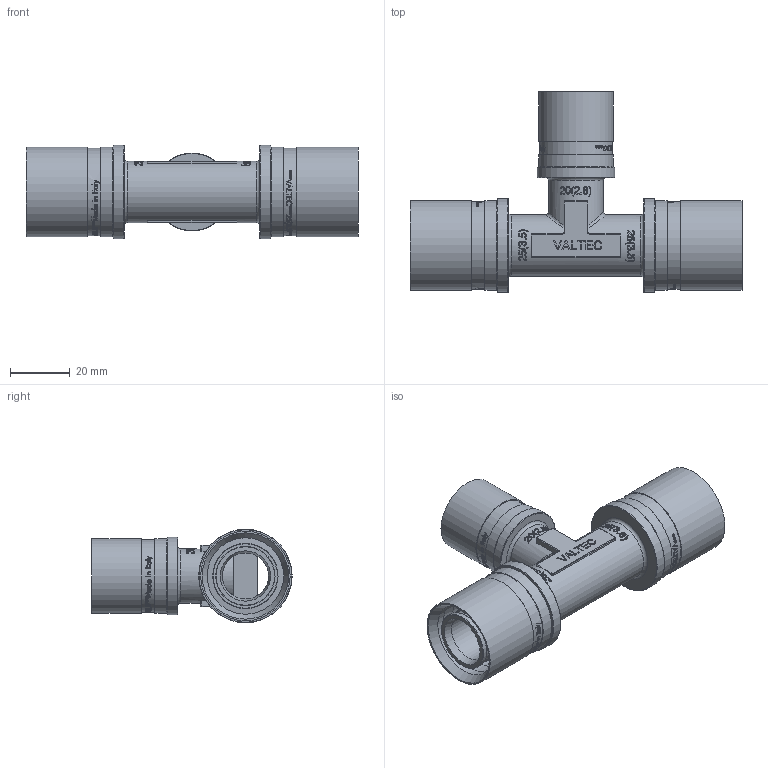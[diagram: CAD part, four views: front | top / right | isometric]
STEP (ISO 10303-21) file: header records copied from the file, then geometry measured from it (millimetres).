
FILE_DESCRIPTION(/* description */ (''),/* implementation_level */ '2;1');
FILE_NAME(/* name */ 'F:\Артём\00000\Работа удаленка\Аксеальные фитинги\VTm.431.BG.252025.stp',/* time_stamp */ '2021-01-26T12:57:09+03:00',/* author */ ('almis'),/* organization */ (''),/* preprocessor_version */ 'ST-DEVELOPER v18',/* originating_system */ 'Autodesk Inventor 2020',/* authorisation */ '');
FILE_SCHEMA (('AUTOMOTIVE_DESIGN { 1 0 10303 214 3 1 1 }'));
Length unit declared in the file: millimetre
Products named in the file (1): VTm.403.BG.001616
Bounding box: 110.82 x 66.86 x 31.2 mm (x, y, z)
Volume: 39452.8 mm3; surface area: 33600 mm2
Topology: 1 solids, 3 shells, 2568 faces, 7036 edges, 4724 vertices
Faces by surface type: bspline 1303, plane 870, cylinder 292, torus 85, cone 18
Full cylindrical faces by diameter (mm): 12.6 x1, 15.4 x1, 15.7 x5, 16.5 x4, 18.2 x1, 18.3 x11, 19.8 x8, 20.5 x1, 20.65 x2, 21.8 x2, 24.3 x1, 25 x2, 25.5 x4, 26 x1, 29.3 x2, 29.85 x4, 31.2 x2
Entity records: 106131 total; most frequent: CARTESIAN_POINT 48572, ORIENTED_EDGE 14058, DIRECTION 8216, EDGE_CURVE 7029, VERTEX_POINT 4725, LINE 3106, VECTOR 3106, EDGE_LOOP 2828
